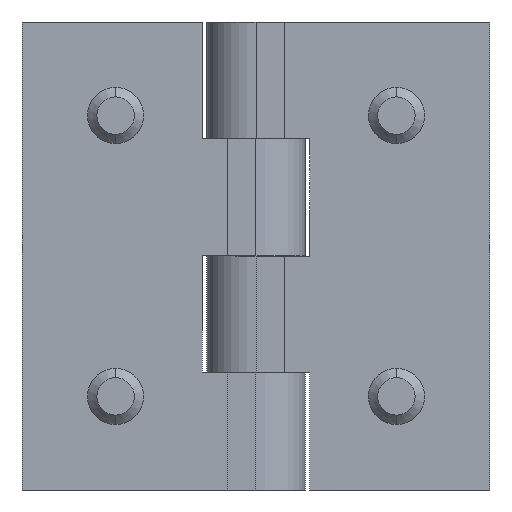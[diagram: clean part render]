
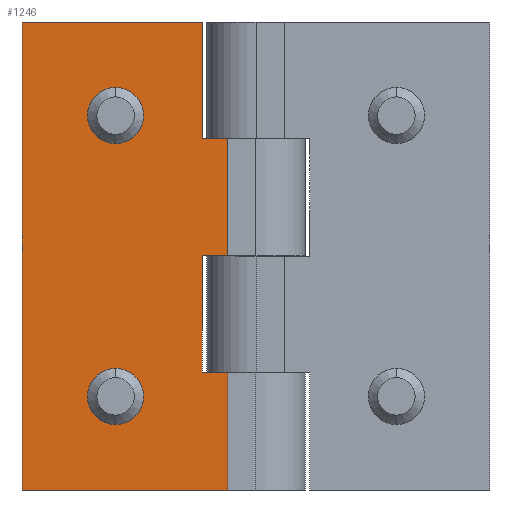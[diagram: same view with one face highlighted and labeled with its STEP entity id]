
A CAD part, front view. The second image highlights one B-rep face of the part: STEP entity #1246.
In plain terms, the highlighted planar face has unit normal (0, -1, 0).
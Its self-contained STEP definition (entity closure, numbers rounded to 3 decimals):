
#8 = CARTESIAN_POINT ( 'NONE',  ( -5.28, -5.423, -5. ) ) ;
#10 = VECTOR ( 'NONE', #1561, 1000. ) ;
#18 = CARTESIAN_POINT ( 'NONE',  ( -2.53, -5.423, 7.5 ) ) ;
#26 = CARTESIAN_POINT ( 'NONE',  ( -5.28, -5.423, 7.5 ) ) ;
#28 = EDGE_CURVE ( 'NONE', #617, #42, #332, .T. ) ;
#30 = VERTEX_POINT ( 'NONE', #737 ) ;
#42 = VERTEX_POINT ( 'NONE', #1536 ) ;
#62 = DIRECTION ( 'NONE',  ( 1., 0., 0. ) ) ;
#94 = ORIENTED_EDGE ( 'NONE', *, *, #377, .T. ) ;
#115 = CARTESIAN_POINT ( 'NONE',  ( -2.53, -5.423, 20. ) ) ;
#121 = VECTOR ( 'NONE', #1234, 1000. ) ;
#128 = DIRECTION ( 'NONE',  ( 0., -1., 0. ) ) ;
#142 = EDGE_CURVE ( 'NONE', #514, #558, #1325, .T. ) ;
#193 = DIRECTION ( 'NONE',  ( 0., 0., -1. ) ) ;
#198 = LINE ( 'NONE', #1556, #719 ) ;
#248 = FACE_OUTER_BOUND ( 'NONE', #1267, .T. ) ;
#254 = DIRECTION ( 'NONE',  ( 1., 0., 0. ) ) ;
#264 = AXIS2_PLACEMENT_3D ( 'NONE', #1488, #128, #937 ) ;
#332 = LINE ( 'NONE', #1689, #1719 ) ;
#345 = DIRECTION ( 'NONE',  ( 0., 0., -1. ) ) ;
#349 = AXIS2_PLACEMENT_3D ( 'NONE', #1085, #430, #965 ) ;
#377 = EDGE_CURVE ( 'NONE', #1114, #739, #198, .T. ) ;
#378 = ORIENTED_EDGE ( 'NONE', *, *, #28, .F. ) ;
#386 = ORIENTED_EDGE ( 'NONE', *, *, #907, .T. ) ;
#389 = CARTESIAN_POINT ( 'NONE',  ( -5.28, -5.423, -5. ) ) ;
#406 = LINE ( 'NONE', #1062, #1029 ) ;
#430 = DIRECTION ( 'NONE',  ( 0., -1., 0. ) ) ;
#439 = CARTESIAN_POINT ( 'NONE',  ( -5.28, -5.423, 7.5 ) ) ;
#460 = VECTOR ( 'NONE', #62, 1000. ) ;
#493 = LINE ( 'NONE', #1548, #1076 ) ;
#514 = VERTEX_POINT ( 'NONE', #842 ) ;
#519 = ORIENTED_EDGE ( 'NONE', *, *, #859, .F. ) ;
#528 = FACE_BOUND ( 'NONE', #970, .T. ) ;
#543 = ORIENTED_EDGE ( 'NONE', *, *, #1257, .F. ) ;
#558 = VERTEX_POINT ( 'NONE', #1496 ) ;
#564 = ORIENTED_EDGE ( 'NONE', *, *, #968, .F. ) ;
#580 = VERTEX_POINT ( 'NONE', #439 ) ;
#603 = CARTESIAN_POINT ( 'NONE',  ( -5.28, -5.423, -17.5 ) ) ;
#617 = VERTEX_POINT ( 'NONE', #1371 ) ;
#623 = CARTESIAN_POINT ( 'NONE',  ( -14.53, -5.423, -20. ) ) ;
#626 = CARTESIAN_POINT ( 'NONE',  ( -5.28, -5.423, 7.5 ) ) ;
#653 = DIRECTION ( 'NONE',  ( 0., -1., 0. ) ) ;
#681 = DIRECTION ( 'NONE',  ( -1., 0., 0. ) ) ;
#719 = VECTOR ( 'NONE', #905, 1000. ) ;
#737 = CARTESIAN_POINT ( 'NONE',  ( -2.53, -5.423, -5. ) ) ;
#739 = VERTEX_POINT ( 'NONE', #1648 ) ;
#756 = ORIENTED_EDGE ( 'NONE', *, *, #1424, .F. ) ;
#777 = VECTOR ( 'NONE', #1204, 1000. ) ;
#788 = FACE_BOUND ( 'NONE', #1695, .T. ) ;
#842 = CARTESIAN_POINT ( 'NONE',  ( -17.53, -5.423, 10. ) ) ;
#859 = EDGE_CURVE ( 'NONE', #1499, #1602, #1109, .T. ) ;
#861 = CIRCLE ( 'NONE', #264, 3. ) ;
#872 = VERTEX_POINT ( 'NONE', #1280 ) ;
#879 = LINE ( 'NONE', #626, #460 ) ;
#887 = EDGE_CURVE ( 'NONE', #1711, #617, #1675, .T. ) ;
#901 = EDGE_CURVE ( 'NONE', #580, #1340, #879, .T. ) ;
#902 = LINE ( 'NONE', #1142, #1001 ) ;
#905 = DIRECTION ( 'NONE',  ( -1., 0., 0. ) ) ;
#907 = EDGE_CURVE ( 'NONE', #739, #872, #493, .T. ) ;
#910 = ORIENTED_EDGE ( 'NONE', *, *, #887, .F. ) ;
#937 = DIRECTION ( 'NONE',  ( 1., 0., 0. ) ) ;
#965 = DIRECTION ( 'NONE',  ( 1., 0., 0. ) ) ;
#968 = EDGE_CURVE ( 'NONE', #1340, #30, #1162, .T. ) ;
#970 = EDGE_LOOP ( 'NONE', ( #1251, #519 ) ) ;
#986 = ORIENTED_EDGE ( 'NONE', *, *, #901, .F. ) ;
#987 = EDGE_CURVE ( 'NONE', #1376, #1711, #902, .T. ) ;
#1001 = VECTOR ( 'NONE', #193, 1000. ) ;
#1009 = CARTESIAN_POINT ( 'NONE',  ( -11.53, -5.423, -20. ) ) ;
#1019 = CARTESIAN_POINT ( 'NONE',  ( -5.28, -5.423, 20. ) ) ;
#1021 = EDGE_CURVE ( 'NONE', #1602, #1499, #1226, .T. ) ;
#1029 = VECTOR ( 'NONE', #681, 1000. ) ;
#1062 = CARTESIAN_POINT ( 'NONE',  ( -2.53, -5.423, -30. ) ) ;
#1076 = VECTOR ( 'NONE', #345, 1000. ) ;
#1085 = CARTESIAN_POINT ( 'NONE',  ( -14.53, -5.423, -20. ) ) ;
#1086 = ORIENTED_EDGE ( 'NONE', *, *, #1356, .F. ) ;
#1094 = LINE ( 'NONE', #26, #777 ) ;
#1109 = CIRCLE ( 'NONE', #349, 3. ) ;
#1114 = VERTEX_POINT ( 'NONE', #1019 ) ;
#1142 = CARTESIAN_POINT ( 'NONE',  ( -5.28, -5.423, -5. ) ) ;
#1148 = DIRECTION ( 'NONE',  ( 0., 0., -1. ) ) ;
#1162 = LINE ( 'NONE', #1693, #10 ) ;
#1191 = CARTESIAN_POINT ( 'NONE',  ( -17.53, -5.423, -20. ) ) ;
#1198 = ORIENTED_EDGE ( 'NONE', *, *, #987, .F. ) ;
#1200 = DIRECTION ( 'NONE',  ( 1., 0., 0. ) ) ;
#1201 = CARTESIAN_POINT ( 'NONE',  ( -14.53, -5.423, 10. ) ) ;
#1204 = DIRECTION ( 'NONE',  ( 0., 0., -1. ) ) ;
#1226 = CIRCLE ( 'NONE', #1367, 3. ) ;
#1234 = DIRECTION ( 'NONE',  ( -1., 0., 0. ) ) ;
#1246 = ADVANCED_FACE ( 'NONE', ( #528, #788, #248 ), #1329, .T. ) ;
#1251 = ORIENTED_EDGE ( 'NONE', *, *, #1021, .F. ) ;
#1257 = EDGE_CURVE ( 'NONE', #30, #1376, #1599, .T. ) ;
#1259 = EDGE_CURVE ( 'NONE', #42, #872, #406, .T. ) ;
#1266 = ORIENTED_EDGE ( 'NONE', *, *, #1259, .F. ) ;
#1267 = EDGE_LOOP ( 'NONE', ( #910, #1198, #543, #564, #986, #756, #94, #386, #1266, #378 ) ) ;
#1280 = CARTESIAN_POINT ( 'NONE',  ( -24.53, -5.423, -30. ) ) ;
#1291 = DIRECTION ( 'NONE',  ( 1., 0., 0. ) ) ;
#1306 = VECTOR ( 'NONE', #1291, 1000. ) ;
#1325 = CIRCLE ( 'NONE', #1659, 3. ) ;
#1329 = PLANE ( 'NONE',  #1475 ) ;
#1330 = DIRECTION ( 'NONE',  ( 0., -1., 0. ) ) ;
#1340 = VERTEX_POINT ( 'NONE', #18 ) ;
#1356 = EDGE_CURVE ( 'NONE', #558, #514, #861, .T. ) ;
#1367 = AXIS2_PLACEMENT_3D ( 'NONE', #623, #1697, #1712 ) ;
#1371 = CARTESIAN_POINT ( 'NONE',  ( -2.53, -5.423, -17.5 ) ) ;
#1376 = VERTEX_POINT ( 'NONE', #8 ) ;
#1405 = ORIENTED_EDGE ( 'NONE', *, *, #142, .F. ) ;
#1424 = EDGE_CURVE ( 'NONE', #1114, #580, #1094, .T. ) ;
#1475 = AXIS2_PLACEMENT_3D ( 'NONE', #115, #653, #1200 ) ;
#1488 = CARTESIAN_POINT ( 'NONE',  ( -14.53, -5.423, 10. ) ) ;
#1496 = CARTESIAN_POINT ( 'NONE',  ( -11.53, -5.423, 10. ) ) ;
#1499 = VERTEX_POINT ( 'NONE', #1009 ) ;
#1536 = CARTESIAN_POINT ( 'NONE',  ( -2.53, -5.423, -30. ) ) ;
#1541 = CARTESIAN_POINT ( 'NONE',  ( -5.28, -5.423, -17.5 ) ) ;
#1548 = CARTESIAN_POINT ( 'NONE',  ( -24.53, -5.423, 20. ) ) ;
#1556 = CARTESIAN_POINT ( 'NONE',  ( -2.53, -5.423, 20. ) ) ;
#1561 = DIRECTION ( 'NONE',  ( 0., 0., -1. ) ) ;
#1599 = LINE ( 'NONE', #389, #121 ) ;
#1602 = VERTEX_POINT ( 'NONE', #1191 ) ;
#1648 = CARTESIAN_POINT ( 'NONE',  ( -24.53, -5.423, 20. ) ) ;
#1659 = AXIS2_PLACEMENT_3D ( 'NONE', #1201, #1330, #254 ) ;
#1675 = LINE ( 'NONE', #1541, #1306 ) ;
#1689 = CARTESIAN_POINT ( 'NONE',  ( -2.53, -5.423, 20. ) ) ;
#1693 = CARTESIAN_POINT ( 'NONE',  ( -2.53, -5.423, 20. ) ) ;
#1695 = EDGE_LOOP ( 'NONE', ( #1405, #1086 ) ) ;
#1697 = DIRECTION ( 'NONE',  ( 0., -1., 0. ) ) ;
#1711 = VERTEX_POINT ( 'NONE', #603 ) ;
#1712 = DIRECTION ( 'NONE',  ( 1., 0., 0. ) ) ;
#1719 = VECTOR ( 'NONE', #1148, 1000. ) ;
